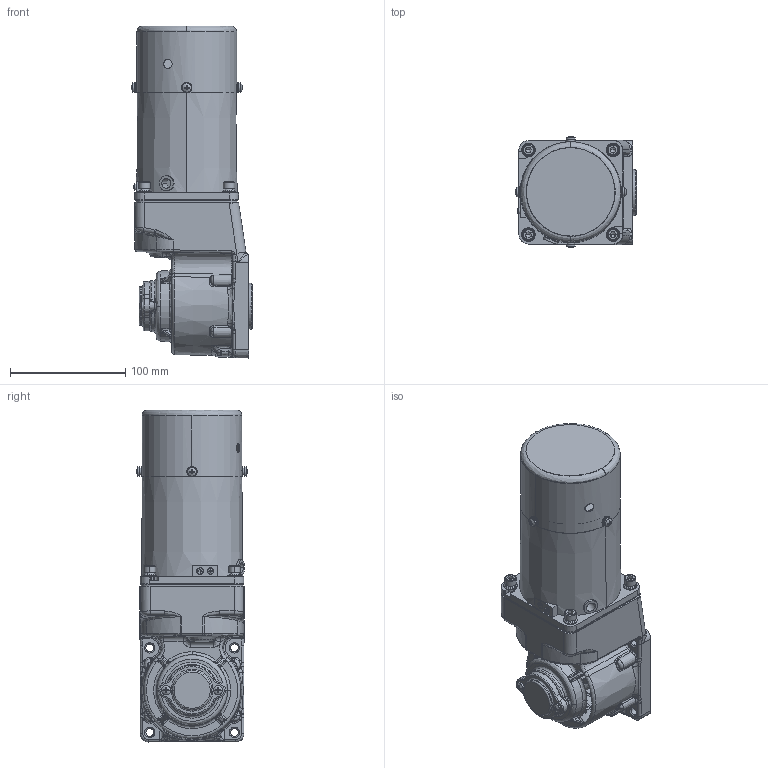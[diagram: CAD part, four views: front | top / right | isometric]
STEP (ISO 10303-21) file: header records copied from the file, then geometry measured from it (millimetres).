
FILE_DESCRIPTION (( 'STEP AP203' ), '1' );
FILE_NAME ('5RK40GU-CM(5GU3RC-180RC)ÐÂ.STEP', '2022-02-23T05:56:48', ( 'PC' ), ( 'Microsoft' ), 'SwSTEP 2.0', 'SolidWorks 2014', '' );
FILE_SCHEMA (( 'CONFIG_CONTROL_DESIGN' ));
Length unit declared in the file: millimetre
Products named in the file (8): hexagon socket head cap screws gb_GB_FASTENER_SCREWS_HSHCS M5X12-N; ZD-5GU50RC-505-003綴傷裔1; cross recessed pan head screws gb_GB_CROSS_SCREWS_TYPE1 M4X6-6  H type-N; 5RK40GU-CM(5GU3RC-180RC); 5RK40GU-CM(5GU3RC-180RC)陔; 90妗陑俋倛芞; 90RT妗陑怀堤傷裔; 90諾陑怀堤粣
Assembly tree (11 placements, depth 2):
  5RK40GU-CM(5GU3RC-180RC)陔
    90妗陑俋倛芞
    90RT妗陑怀堤傷裔
    90諾陑怀堤粣
    hexagon socket head cap screws gb_GB_FASTENER_SCREWS_HSHCS M5X12-N  x4
    ZD-5GU50RC-505-003綴傷裔1
    cross recessed pan head screws gb_GB_CROSS_SCREWS_TYPE1 M4X6-6  H type-N  x2
    5RK40GU-CM(5GU3RC-180RC)
Bounding box: 105.85 x 96.71 x 288.54 mm (x, y, z)
Volume: 1479903.5 mm3; surface area: 211347.9 mm2
Topology: 41 solids, 41 shells, 2053 faces, 5048 edges, 3016 vertices
Faces by surface type: plane 624, bspline 483, cylinder 451, cone 408, torus 83, sphere 4
Entity records: 85927 total; most frequent: CARTESIAN_POINT 42952, ORIENTED_EDGE 9392, DIRECTION 7982, EDGE_CURVE 4696, AXIS2_PLACEMENT_3D 3171, VERTEX_POINT 2873, EDGE_LOOP 2071, ADVANCED_FACE 1953
